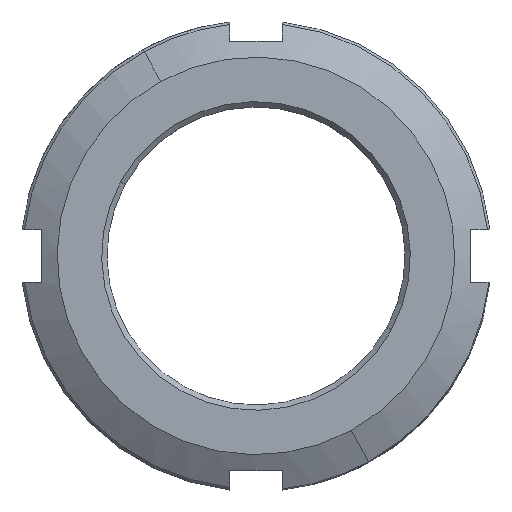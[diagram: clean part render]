
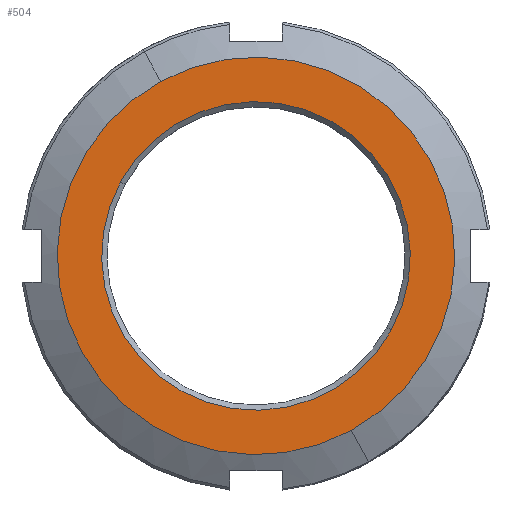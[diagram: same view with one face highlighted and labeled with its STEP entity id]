
A CAD part, top view. The second image highlights one B-rep face of the part: STEP entity #504.
In plain terms, the highlighted planar face has unit normal (0, 0, 1).
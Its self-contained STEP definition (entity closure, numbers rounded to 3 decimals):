
#438=CARTESIAN_POINT('Vertex',(-12.944,7.072,7.)) ;
#441=CARTESIAN_POINT('Axis2P3D Location',(0.,0.,7.)) ;
#445=CARTESIAN_POINT('Vertex',(12.944,-7.072,7.)) ;
#465=CARTESIAN_POINT('Axis2P3D Location',(0.,0.,7.)) ;
#477=CARTESIAN_POINT('Axis2P3D Location',(0.,0.,7.)) ;
#482=CARTESIAN_POINT('Axis2P3D Location',(0.,0.,7.)) ;
#486=CARTESIAN_POINT('Vertex',(9.109,-16.674,7.)) ;
#488=CARTESIAN_POINT('Vertex',(-9.109,16.674,7.)) ;
#491=CARTESIAN_POINT('Axis2P3D Location',(0.,0.,7.)) ;
#442=DIRECTION('Axis2P3D Direction',(0.,0.,1.)) ;
#466=DIRECTION('Axis2P3D Direction',(0.,0.,1.)) ;
#478=DIRECTION('Axis2P3D Direction',(0.,0.,1.)) ;
#479=DIRECTION('Axis2P3D XDirection',(1.,0.,0.)) ;
#483=DIRECTION('Axis2P3D Direction',(0.,0.,1.)) ;
#492=DIRECTION('Axis2P3D Direction',(0.,0.,1.)) ;
#443=AXIS2_PLACEMENT_3D('Circle Axis2P3D',#441,#442,$) ;
#467=AXIS2_PLACEMENT_3D('Circle Axis2P3D',#465,#466,$) ;
#480=AXIS2_PLACEMENT_3D('Plane Axis2P3D',#477,#478,#479) ;
#484=AXIS2_PLACEMENT_3D('Circle Axis2P3D',#482,#483,$) ;
#493=AXIS2_PLACEMENT_3D('Circle Axis2P3D',#491,#492,$) ;
#497=ORIENTED_EDGE('',*,*,#490,.T.) ;
#498=ORIENTED_EDGE('',*,*,#495,.T.) ;
#501=ORIENTED_EDGE('',*,*,#469,.F.) ;
#502=ORIENTED_EDGE('',*,*,#447,.F.) ;
#503=FACE_BOUND('',#500,.T.) ;
#504=ADVANCED_FACE('PartBody',(#499,#503),#481,.T.) ;
#444=CIRCLE('generated circle',#443,14.75) ;
#468=CIRCLE('generated circle',#467,14.75) ;
#485=CIRCLE('generated circle',#484,19.) ;
#494=CIRCLE('generated circle',#493,19.) ;
#447=EDGE_CURVE('',#439,#446,#444,.T.) ;
#469=EDGE_CURVE('',#446,#439,#468,.T.) ;
#490=EDGE_CURVE('',#487,#489,#485,.T.) ;
#495=EDGE_CURVE('',#489,#487,#494,.T.) ;
#496=EDGE_LOOP('',(#497,#498)) ;
#500=EDGE_LOOP('',(#501,#502)) ;
#499=FACE_OUTER_BOUND('',#496,.T.) ;
#481=PLANE('Plane',#480) ;
#439=VERTEX_POINT('',#438) ;
#446=VERTEX_POINT('',#445) ;
#487=VERTEX_POINT('',#486) ;
#489=VERTEX_POINT('',#488) ;
